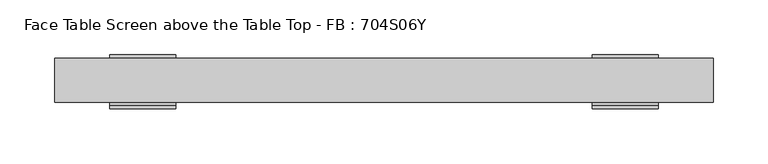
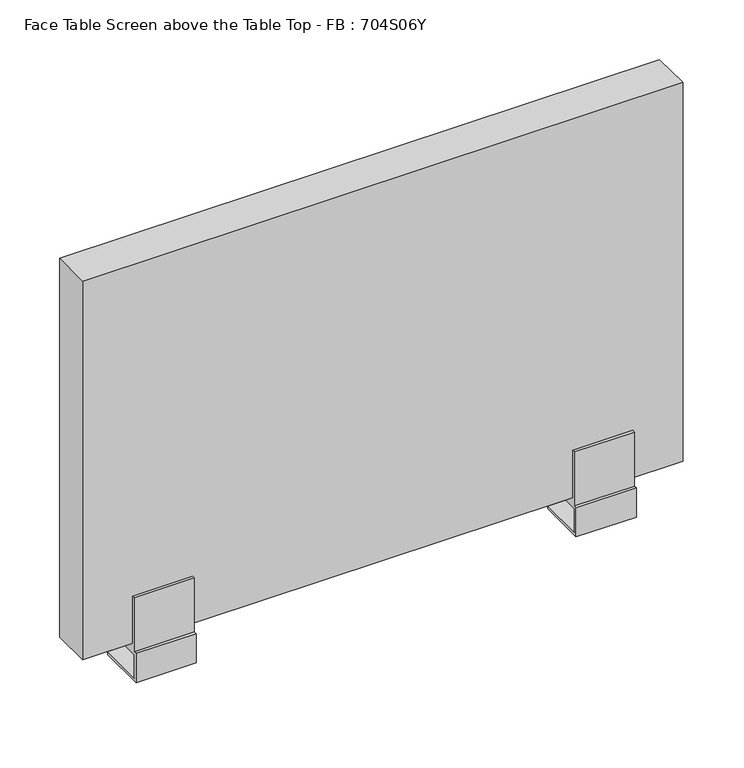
"""IFC4 building model written with IfcOpenShell, lengths in millimetres: furniture geometry, Face Table Screen above the Table Top - FB : 704S06Y."""

from ifc_helpers import new_model, si_unit, frame, origin, place, context, project, spatial, polyline, circle_curve, outline, extrude, source, transform, mapped, element, save
from ifc_brep_helpers import plane_surface, cylinder_surface, advanced_brep


def face_table_screen_above_the_table_top_fb_704s06y_ef0356d6(model_context):
    return source(origin(), model_context, "Body", "SolidModel", [
        advanced_brep(
        [(-225.0, 20.0, -39.4406633), (-215.0, 20.0, -39.4406633), (-215.0, 20.0, -28.0), (-225.0, 20.0, -28.0), (-250.0, 43.0, -25.0), (-250.0, -3.0, -25.0), (-190.0, -3.0, -25.0), (-190.0, 43.0, -25.0), (-250.0, -3.0, 0.0), (-250.0, 43.0, -28.0), (-250.0, -6.0, -28.0), (-250.0, -6.0, 3.0), (-250.0, -3.0, 3.0), (-250.0, -3.0, 60.0), (-250.0, 0.0, 60.0), (-250.0, 0.0, 10.0), (-250.0, 40.0, 10.0), (-250.0, 40.0, 60.0), (-250.0, 43.0, 60.0), (-250.0, 43.0, 0.0), (-190.0, -3.0, 0.0), (-190.0, 43.0, 0.0), (-190.0, 43.0, 60.0), (-190.0, 40.0, 60.0), (-190.0, 40.0, 10.0), (-190.0, 0.0, 10.0), (-190.0, 0.0, 60.0), (-190.0, -3.0, 60.0), (-190.0, -3.0, 3.0), (-190.0, -6.0, 3.0), (-190.0, -6.0, -28.0), (-190.0, 43.0, -28.0)],
        [
            (0, 1, circle_curve(frame((-220.0, 20.0, -39.4406633), z_axis=(0.0, 0.0, -1.0), x_axis=(1.0, 0.0, 0.0)), 5.0)),
            (1, 0, circle_curve(frame((-220.0, 20.0, -39.4406633), z_axis=(0.0, 0.0, -1.0), x_axis=(1.0, 0.0, 0.0)), 5.0)),
            (1, 2),
            (2, 3, circle_curve(frame((-220.0, 20.0, -28.0), z_axis=(0.0, 0.0, -1.0), x_axis=(1.0, 0.0, 0.0)), 5.0)),
            (3, 0),
            (3, 2, circle_curve(frame((-220.0, 20.0, -28.0), z_axis=(0.0, 0.0, -1.0), x_axis=(1.0, 0.0, 0.0)), 5.0)),
            (4, 5),
            (5, 6),
            (6, 7),
            (7, 4),
            (8, 5),
            (4, 9),
            (9, 10),
            (10, 11),
            (11, 12),
            (12, 13),
            (13, 14),
            (14, 15),
            (15, 16),
            (16, 17),
            (17, 18),
            (18, 19),
            (19, 8),
            (20, 21),
            (21, 22),
            (22, 23),
            (23, 24),
            (24, 25),
            (25, 26),
            (26, 27),
            (27, 28),
            (28, 29),
            (29, 30),
            (30, 31),
            (31, 7),
            (6, 20),
            (19, 21),
            (20, 8),
            (18, 22),
            (17, 23),
            (16, 24),
            (15, 25),
            (14, 26),
            (13, 27),
            (12, 28),
            (11, 29),
            (10, 30),
            (9, 31),
        ],
        [
            plane_surface(frame((-215.0, 20.0, -39.4406633), z_axis=(0.0, 0.0, -1.0), x_axis=(0.0, -1.0, 0.0))),
            cylinder_surface(frame((-220.0, 20.0, -39.4406633), z_axis=(0.0, 0.0, 1.0), x_axis=(1.0, 0.0, 0.0)), 5.0),
            plane_surface(frame((-215.0, 20.0, -25.0), z_axis=(0.0, 0.0, 1.0), x_axis=(0.0, 1.0, 0.0))),
            plane_surface(frame((-250.0, 43.0, 0.0), z_axis=(-1.0, 0.0, 0.0), x_axis=(0.0, -1.0, 0.0))),
            plane_surface(frame((-190.0, 43.0, 0.0), z_axis=(1.0, 0.0, 0.0), x_axis=(0.0, 1.0, 0.0))),
            plane_surface(frame((-190.0, -3.0, 0.0), z_axis=(0.0, 0.0, -1.0), x_axis=(-1.0, 0.0, 0.0))),
            plane_surface(frame((-190.0, 43.0, 0.0), z_axis=(0.0, 1.0, 0.0), x_axis=(-1.0, 0.0, 0.0))),
            plane_surface(frame((-190.0, 43.0, 60.0), z_axis=(0.0, 0.0, 1.0), x_axis=(-1.0, 0.0, 0.0))),
            plane_surface(frame((-190.0, 40.0, 60.0), z_axis=(0.0, -1.0, 0.0), x_axis=(-1.0, 0.0, 0.0))),
            plane_surface(frame((-190.0, 40.0, 10.0), z_axis=(0.0, 0.0, 1.0), x_axis=(-1.0, 0.0, 0.0))),
            plane_surface(frame((-190.0, 0.0, 10.0), z_axis=(0.0, 1.0, 0.0), x_axis=(-1.0, 0.0, 0.0))),
            plane_surface(frame((-190.0, 0.0, 60.0), z_axis=(0.0, 0.0, 1.0), x_axis=(-1.0, 0.0, 0.0))),
            plane_surface(frame((-190.0, -3.0, 60.0), z_axis=(0.0, -1.0, 0.0), x_axis=(-1.0, 0.0, 0.0))),
            plane_surface(frame((-190.0, -3.0, 3.0), z_axis=(0.0, 0.0, 1.0), x_axis=(-1.0, 0.0, 0.0))),
            plane_surface(frame((-190.0, -6.0, 3.0), z_axis=(0.0, -1.0, 0.0), x_axis=(-1.0, 0.0, 0.0))),
            plane_surface(frame((-190.0, -6.0, -28.0), z_axis=(0.0, 0.0, -1.0), x_axis=(-1.0, 0.0, 0.0))),
            plane_surface(frame((-190.0, 43.0, -28.0), z_axis=(0.0, 1.0, 0.0), x_axis=(-1.0, 0.0, 0.0))),
            plane_surface(frame((-190.0, -3.0, -25.0), z_axis=(0.0, 1.0, 0.0), x_axis=(-1.0, 0.0, 0.0))),
        ],
        [
            (0, [[1, 2]]),
            (1, [[-2, 3, 4, 5]]),
            (1, [[-1, -5, 6, -3]]),
            (2, [[7, 8, 9, 10]]),
            (3, [[11, -7, 12, 13, 14, 15, 16, 17, 18, 19, 20, 21, 22, 23]]),
            (4, [[24, 25, 26, 27, 28, 29, 30, 31, 32, 33, 34, 35, -9, 36]]),
            (5, [[-23, 37, -24, 38]]),
            (6, [[-22, 39, -25, -37]]),
            (7, [[-21, 40, -26, -39]]),
            (8, [[-20, 41, -27, -40]]),
            (9, [[-19, 42, -28, -41]]),
            (10, [[-18, 43, -29, -42]]),
            (11, [[-17, 44, -30, -43]]),
            (12, [[-16, 45, -31, -44]]),
            (13, [[-15, 46, -32, -45]]),
            (14, [[-14, 47, -33, -46]]),
            (15, [[-13, 48, -34, -47], [-4, -6]]),
            (16, [[-12, -10, -35, -48]]),
            (17, [[-11, -38, -36, -8]]),
        ],
    ),
        advanced_brep(
        [(215.0, 20.0, -39.4406633), (225.0, 20.0, -39.4406633), (225.0, 20.0, -28.0), (215.0, 20.0, -28.0), (190.0, 43.0, -25.0), (190.0, -3.0, -25.0), (250.0, -3.0, -25.0), (250.0, 43.0, -25.0), (190.0, -3.0, 0.0), (190.0, 43.0, -28.0), (190.0, -6.0, -28.0), (190.0, -6.0, 3.0), (190.0, -3.0, 3.0), (190.0, -3.0, 60.0), (190.0, 0.0, 60.0), (190.0, 0.0, 10.0), (190.0, 40.0, 10.0), (190.0, 40.0, 60.0), (190.0, 43.0, 60.0), (190.0, 43.0, 0.0), (250.0, -3.0, 0.0), (250.0, 43.0, 0.0), (250.0, 43.0, 60.0), (250.0, 40.0, 60.0), (250.0, 40.0, 10.0), (250.0, 0.0, 10.0), (250.0, 0.0, 60.0), (250.0, -3.0, 60.0), (250.0, -3.0, 3.0), (250.0, -6.0, 3.0), (250.0, -6.0, -28.0), (250.0, 43.0, -28.0)],
        [
            (0, 1, circle_curve(frame((220.0, 20.0, -39.4406633), z_axis=(0.0, 0.0, -1.0), x_axis=(1.0, 0.0, 0.0)), 5.0)),
            (1, 0, circle_curve(frame((220.0, 20.0, -39.4406633), z_axis=(0.0, 0.0, -1.0), x_axis=(1.0, 0.0, 0.0)), 5.0)),
            (1, 2),
            (2, 3, circle_curve(frame((220.0, 20.0, -28.0), z_axis=(0.0, 0.0, -1.0), x_axis=(1.0, 0.0, 0.0)), 5.0)),
            (3, 0),
            (3, 2, circle_curve(frame((220.0, 20.0, -28.0), z_axis=(0.0, 0.0, -1.0), x_axis=(1.0, 0.0, 0.0)), 5.0)),
            (4, 5),
            (5, 6),
            (6, 7),
            (7, 4),
            (8, 5),
            (4, 9),
            (9, 10),
            (10, 11),
            (11, 12),
            (12, 13),
            (13, 14),
            (14, 15),
            (15, 16),
            (16, 17),
            (17, 18),
            (18, 19),
            (19, 8),
            (20, 21),
            (21, 22),
            (22, 23),
            (23, 24),
            (24, 25),
            (25, 26),
            (26, 27),
            (27, 28),
            (28, 29),
            (29, 30),
            (30, 31),
            (31, 7),
            (6, 20),
            (19, 21),
            (20, 8),
            (18, 22),
            (17, 23),
            (16, 24),
            (15, 25),
            (14, 26),
            (13, 27),
            (12, 28),
            (11, 29),
            (10, 30),
            (9, 31),
        ],
        [
            plane_surface(frame((225.0, 20.0, -39.4406633), z_axis=(0.0, 0.0, -1.0), x_axis=(0.0, -1.0, 0.0))),
            cylinder_surface(frame((220.0, 20.0, -39.4406633), z_axis=(0.0, 0.0, 1.0), x_axis=(1.0, 0.0, 0.0)), 5.0),
            plane_surface(frame((225.0, 20.0, -25.0), z_axis=(0.0, 0.0, 1.0), x_axis=(0.0, 1.0, 0.0))),
            plane_surface(frame((190.0, 43.0, 0.0), z_axis=(-1.0, 0.0, 0.0), x_axis=(0.0, -1.0, 0.0))),
            plane_surface(frame((250.0, 43.0, 0.0), z_axis=(1.0, 0.0, 0.0), x_axis=(0.0, 1.0, 0.0))),
            plane_surface(frame((250.0, -3.0, 0.0), z_axis=(0.0, 0.0, -1.0), x_axis=(-1.0, 0.0, 0.0))),
            plane_surface(frame((250.0, 43.0, 0.0), z_axis=(0.0, 1.0, 0.0), x_axis=(-1.0, 0.0, 0.0))),
            plane_surface(frame((250.0, 43.0, 60.0), z_axis=(0.0, 0.0, 1.0), x_axis=(-1.0, 0.0, 0.0))),
            plane_surface(frame((250.0, 40.0, 60.0), z_axis=(0.0, -1.0, 0.0), x_axis=(-1.0, 0.0, 0.0))),
            plane_surface(frame((250.0, 40.0, 10.0), z_axis=(0.0, 0.0, 1.0), x_axis=(-1.0, 0.0, 0.0))),
            plane_surface(frame((250.0, 0.0, 10.0), z_axis=(0.0, 1.0, 0.0), x_axis=(-1.0, 0.0, 0.0))),
            plane_surface(frame((250.0, 0.0, 60.0), z_axis=(0.0, 0.0, 1.0), x_axis=(-1.0, 0.0, 0.0))),
            plane_surface(frame((250.0, -3.0, 60.0), z_axis=(0.0, -1.0, 0.0), x_axis=(-1.0, 0.0, 0.0))),
            plane_surface(frame((250.0, -3.0, 3.0), z_axis=(0.0, 0.0, 1.0), x_axis=(-1.0, 0.0, 0.0))),
            plane_surface(frame((250.0, -6.0, 3.0), z_axis=(0.0, -1.0, 0.0), x_axis=(-1.0, 0.0, 0.0))),
            plane_surface(frame((250.0, -6.0, -28.0), z_axis=(0.0, 0.0, -1.0), x_axis=(-1.0, 0.0, 0.0))),
            plane_surface(frame((250.0, 43.0, -28.0), z_axis=(0.0, 1.0, 0.0), x_axis=(-1.0, 0.0, 0.0))),
            plane_surface(frame((250.0, -3.0, -25.0), z_axis=(0.0, 1.0, 0.0), x_axis=(-1.0, 0.0, 0.0))),
        ],
        [
            (0, [[1, 2]]),
            (1, [[-2, 3, 4, 5]]),
            (1, [[-1, -5, 6, -3]]),
            (2, [[7, 8, 9, 10]]),
            (3, [[11, -7, 12, 13, 14, 15, 16, 17, 18, 19, 20, 21, 22, 23]]),
            (4, [[24, 25, 26, 27, 28, 29, 30, 31, 32, 33, 34, 35, -9, 36]]),
            (5, [[-23, 37, -24, 38]]),
            (6, [[-22, 39, -25, -37]]),
            (7, [[-21, 40, -26, -39]]),
            (8, [[-20, 41, -27, -40]]),
            (9, [[-19, 42, -28, -41]]),
            (10, [[-18, 43, -29, -42]]),
            (11, [[-17, 44, -30, -43]]),
            (12, [[-16, 45, -31, -44]]),
            (13, [[-15, 46, -32, -45]]),
            (14, [[-14, 47, -33, -46]]),
            (15, [[-13, 48, -34, -47], [-4, -6]]),
            (16, [[-12, -10, -35, -48]]),
            (17, [[-11, -38, -36, -8]]),
        ],
    ),
        extrude(outline(polyline([(300.0, 0.0), (-300.0, 0.0), (-300.0, 40.0), (300.0, 40.0), (300.0, 0.0)])), frame((0.0, 0.0, 10.0), z_axis=(0.0, 0.0, 1.0), x_axis=(1.0, 0.0, 0.0)), (0.0, 0.0, 1.0), 400.0),
    ])


if __name__ == "__main__":
    model = new_model("IFC4")
    model_context = context("Model", 3, world=origin())
    ifc_project = project(units=[si_unit("LENGTHUNIT", "METRE", prefix="MILLI")], contexts=[model_context])
    site = spatial("IfcSite", under=ifc_project)
    building = spatial("IfcBuilding", under=site)
    placement = place(None, origin())
    face_table_screen_above_the_table_top_fb_704s06y_shape = face_table_screen_above_the_table_top_fb_704s06y_ef0356d6(model_context)
    element("IfcFurniture", 1, ObjectType="Face Table Screen above the Table Top - FB : 704S06Y", at=placement, inside=building, context=model_context, shape_type="MappedRepresentation", body=[
        mapped(face_table_screen_above_the_table_top_fb_704s06y_shape, transform((0.0, 0.0, 0.0), x_axis=(1.0, 0.0, 0.0), y_axis=(0.0, 1.0, 0.0), z_axis=(0.0, 0.0, 1.0))),
    ])
    save(model, "model.ifc")
